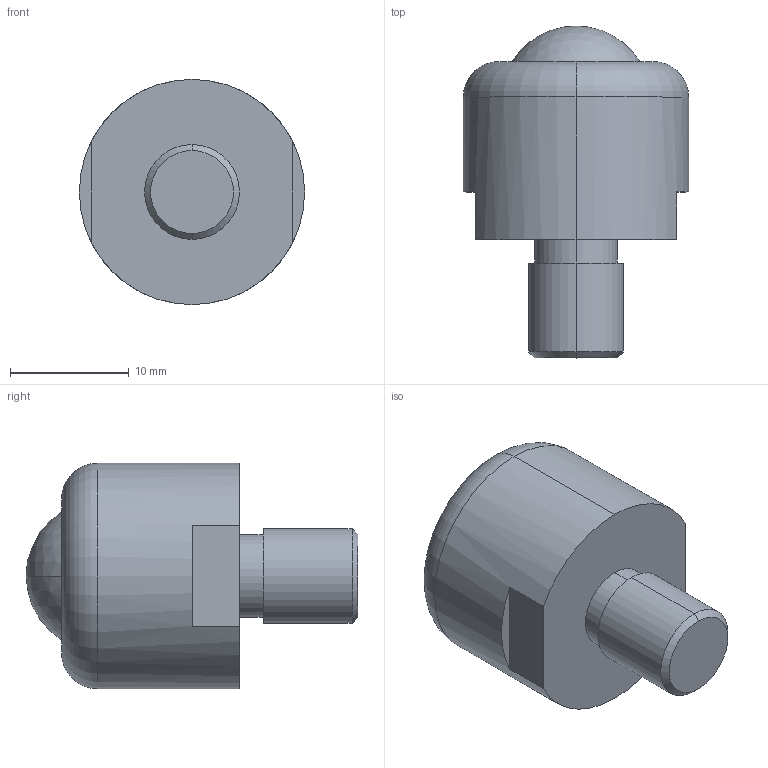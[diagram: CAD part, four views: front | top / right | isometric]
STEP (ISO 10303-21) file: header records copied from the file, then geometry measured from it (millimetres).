
FILE_DESCRIPTION (( 'STEP AP203' ), '1' );
FILE_NAME ('PVP16BJ-SJ.STEP', '2015-12-15T04:32:09', ( '' ), ( '' ), 'SwSTEP 2.0', 'SolidWorks 2013', '' );
FILE_SCHEMA (( 'CONFIG_CONTROL_DESIGN' ));
Length unit declared in the file: millimetre
Products named in the file (1): PVP16BJ-SJ
Bounding box: 19 x 28 x 19 mm (x, y, z)
Volume: 4727.4 mm3; surface area: 1668.3 mm2
Topology: 1 solids, 1 shells, 20 faces, 42 edges, 27 vertices
Faces by surface type: plane 8, cylinder 6, cone 2, torus 2, sphere 2
Entity records: 625 total; most frequent: DIRECTION 110, CARTESIAN_POINT 90, ORIENTED_EDGE 84, AXIS2_PLACEMENT_3D 47, EDGE_CURVE 42, VERTEX_POINT 27, CIRCLE 26, EDGE_LOOP 23
